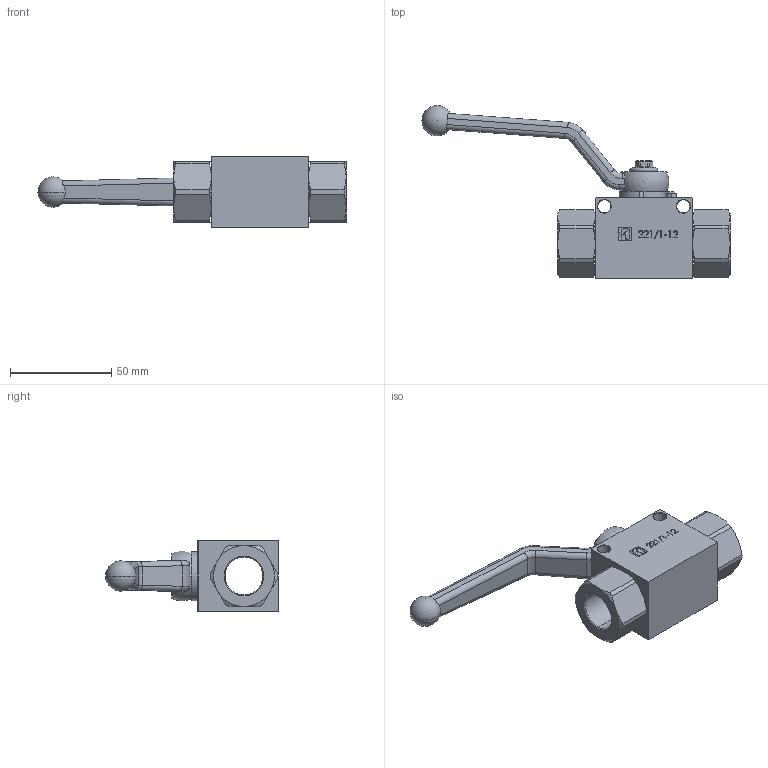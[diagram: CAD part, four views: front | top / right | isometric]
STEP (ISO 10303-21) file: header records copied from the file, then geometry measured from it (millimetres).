
FILE_DESCRIPTION (( 'STEP AP214' ), '1' );
FILE_NAME ('221-1-12.STEP', '2015-05-15T13:12:19', ( '' ), ( '' ), 'SwSTEP 2.0', 'SolidWorks 2014', '' );
FILE_SCHEMA (( 'AUTOMOTIVE_DESIGN' ));
Length unit declared in the file: millimetre
Products named in the file (1): 221-1-12
Bounding box: 152 x 85.25 x 35 mm (x, y, z)
Surface area: 22411.1 mm2 (no closed solid volume)
Topology: 0 solids, 3 shells, 211 faces, 637 edges, 413 vertices
Faces by surface type: plane 92, cylinder 54, cone 30, bspline 26, sphere 5, torus 4
Entity records: 10985 total; most frequent: CARTESIAN_POINT 3275, ORIENTED_EDGE 1109, DIRECTION 1044, EDGE_CURVE 624, VERTEX_POINT 405, AXIS2_PLACEMENT_3D 356, LINE 332, VECTOR 332
